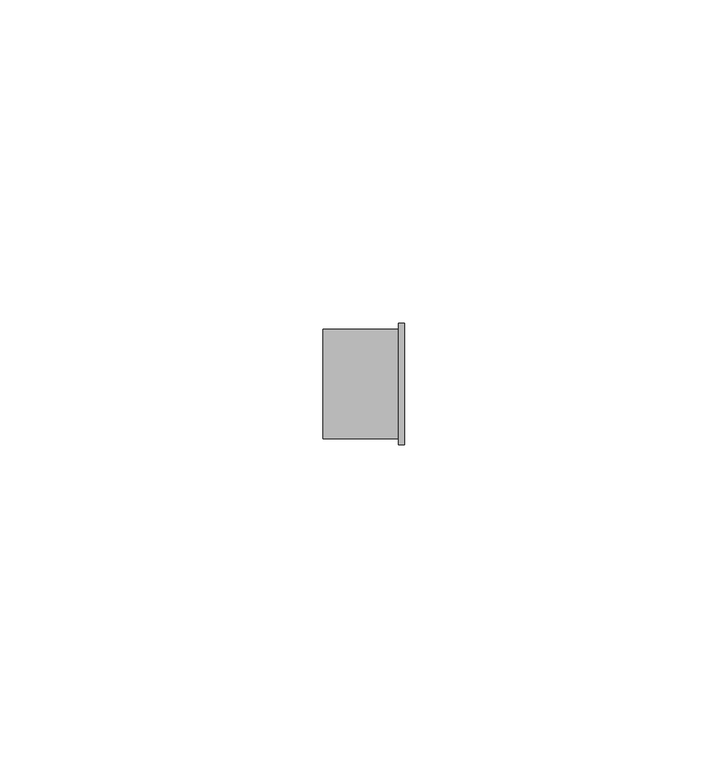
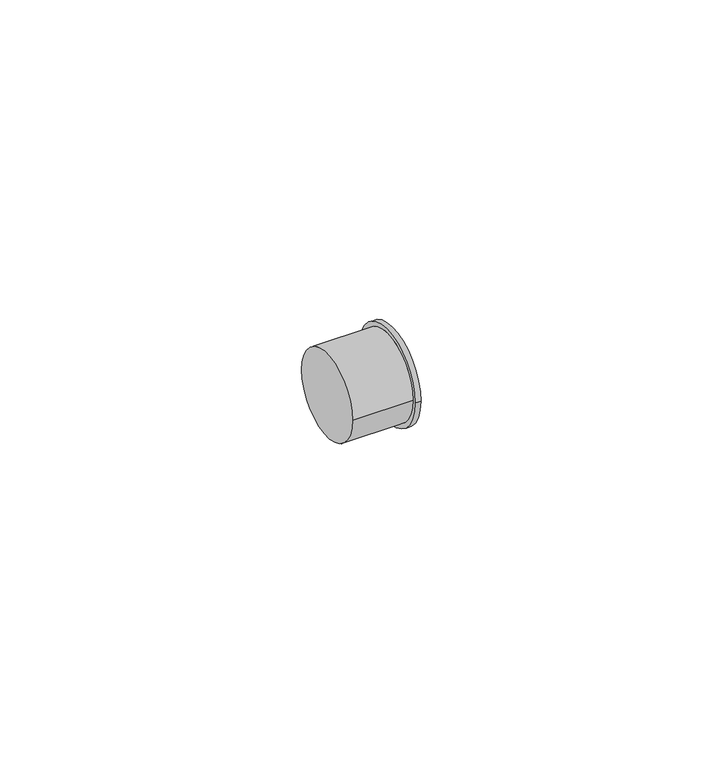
"""IFC4 building model written with IfcOpenShell, lengths in millimetres: pipe fitting geometry, Bucha de redução reta - Soldada - CU : Padrão."""

from ifc_helpers import new_model, si_unit, frame, origin, place, context, project, spatial, circle_curve, source, transform, mapped, element, save
from ifc_brep_helpers import plane_surface, cylinder_surface, advanced_brep


def pipe_fitting_fc585682(model_context):
    return source(origin(), model_context, "Body", "AdvancedBrep", [
        advanced_brep(
        [(0.0, -8.509, 0.0), (0.0, 8.509, 0.0), (11.673, -8.509, 0.0), (11.673, 8.509, 0.0), (12.673, -9.425, 0.0), (12.673, 9.425, 0.0), (11.673, 9.425, 0.0), (11.673, -9.425, 0.0)],
        [
            (0, 1, circle_curve(frame((0.0, 0.0, 0.0), z_axis=(-1.0, 0.0, 0.0), x_axis=(0.0, 1.0, 0.0)), 8.509)),
            (1, 0, circle_curve(frame((0.0, 0.0, 0.0), z_axis=(-1.0, 0.0, 0.0), x_axis=(0.0, 1.0, 0.0)), 8.509)),
            (0, 2),
            (2, 3, circle_curve(frame((11.673, 0.0, 0.0), z_axis=(-1.0, 0.0, 0.0), x_axis=(0.0, 1.0, 0.0)), 8.509)),
            (3, 1),
            (3, 2, circle_curve(frame((11.673, 0.0, 0.0), z_axis=(-1.0, 0.0, 0.0), x_axis=(0.0, 1.0, 0.0)), 8.509)),
            (4, 5, circle_curve(frame((12.673, 0.0, 0.0), z_axis=(1.0, 0.0, 0.0), x_axis=(0.0, 1.0, 0.0)), 9.425)),
            (5, 4, circle_curve(frame((12.673, 0.0, 0.0), z_axis=(1.0, 0.0, 0.0), x_axis=(0.0, 1.0, 0.0)), 9.425)),
            (6, 7, circle_curve(frame((11.673, 0.0, 0.0), z_axis=(1.0, 0.0, 0.0), x_axis=(0.0, 1.0, 0.0)), 9.425)),
            (7, 4),
            (5, 6),
            (7, 6, circle_curve(frame((11.673, 0.0, 0.0), z_axis=(1.0, 0.0, 0.0), x_axis=(0.0, 1.0, 0.0)), 9.425)),
        ],
        [
            plane_surface(frame((0.0, 0.0, 0.0), z_axis=(-1.0, 0.0, 0.0), x_axis=(0.0, 0.0, 1.0))),
            cylinder_surface(frame((0.0, 0.0, 0.0), z_axis=(-1.0, 0.0, 0.0), x_axis=(0.0, 1.0, 0.0)), 8.509),
            plane_surface(frame((12.673, 0.0, 0.0), z_axis=(1.0, 0.0, 0.0), x_axis=(0.0, 0.0, 1.0))),
            cylinder_surface(frame((11.673, 0.0, 0.0), z_axis=(-1.0, 0.0, 0.0), x_axis=(0.0, 1.0, 0.0)), 9.425),
            plane_surface(frame((11.673, 0.0, 0.0), z_axis=(-1.0, 0.0, 0.0), x_axis=(0.0, 0.0, 1.0))),
        ],
        [
            (0, [[1, 2]]),
            (1, [[-1, 3, 4, 5]]),
            (1, [[-2, -5, 6, -3]]),
            (2, [[7, 8]]),
            (3, [[9, 10, -8, 11]]),
            (3, [[12, -11, -7, -10]]),
            (4, [[-9, -12], [-4, -6]]),
        ],
    ),
    ])


if __name__ == "__main__":
    model = new_model("IFC4")
    model_context = context("Model", 3, world=origin())
    ifc_project = project(units=[si_unit("LENGTHUNIT", "METRE", prefix="MILLI")], contexts=[model_context])
    site = spatial("IfcSite", under=ifc_project)
    building = spatial("IfcBuilding", under=site)
    placement = place(None, origin())
    pipe_fitting_shape = pipe_fitting_fc585682(model_context)
    element("IfcPipeFitting", 1, ObjectType="Bucha de redução reta - Soldada - CU : Padrão", at=placement, inside=building, context=model_context, shape_type="MappedRepresentation", body=[
        mapped(pipe_fitting_shape, transform((0.0, 0.0, 0.0), x_axis=(1.0, 0.0, 0.0), y_axis=(0.0, 1.0, 0.0), z_axis=(0.0, 0.0, 1.0))),
    ])
    save(model, "model.ifc")
